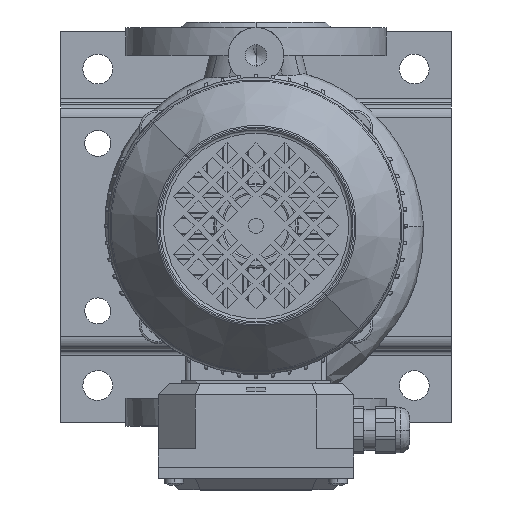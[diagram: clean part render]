
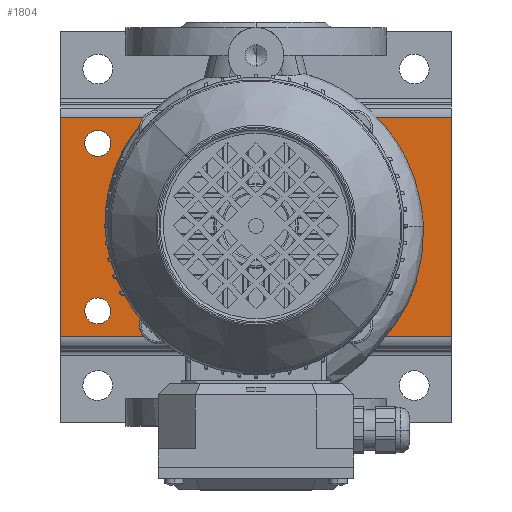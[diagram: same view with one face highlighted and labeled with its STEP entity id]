
A CAD part, top view. The second image highlights one B-rep face of the part: STEP entity #1804.
In plain terms, the highlighted planar face has unit normal (0, 0, 1) as drawn and (0, 1, 0) by its records, which use the part's own axes.
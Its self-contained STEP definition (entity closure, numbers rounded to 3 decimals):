
#1804=ADVANCED_FACE('',(#3386,#3387,#3388,#3389,#3390),#3391,.T.);
#1856=EDGE_CURVE('',#3479,#3480,#3481,.T.);
#1864=EDGE_CURVE('',#3495,#3496,#3497,.T.);
#1872=EDGE_CURVE('',#3511,#3512,#3513,.T.);
#1880=EDGE_CURVE('',#3527,#3528,#3529,.T.);
#1924=EDGE_CURVE('',#3600,#3603,#3604,.T.);
#1948=EDGE_CURVE('',#3635,#3638,#3639,.T.);
#1968=EDGE_CURVE('',#3638,#3600,#3663,.T.);
#1970=EDGE_CURVE('',#3635,#3603,#3665,.T.);
#1972=EDGE_CURVE('',#3528,#3527,#3667,.T.);
#1974=EDGE_CURVE('',#3512,#3511,#3669,.T.);
#1976=EDGE_CURVE('',#3496,#3495,#3671,.T.);
#1978=EDGE_CURVE('',#3480,#3479,#3673,.T.);
#3386=FACE_OUTER_BOUND('',#11024,.T.);
#3387=FACE_BOUND('',#11025,.T.);
#3388=FACE_BOUND('',#11026,.T.);
#3389=FACE_BOUND('',#11027,.T.);
#3390=FACE_BOUND('',#11028,.T.);
#3391=PLANE('',#11029);
#3479=VERTEX_POINT('',#11119);
#3480=VERTEX_POINT('',#11120);
#3481=CIRCLE('',#11121,5.5);
#3495=VERTEX_POINT('',#11139);
#3496=VERTEX_POINT('',#11140);
#3497=CIRCLE('',#11141,7.);
#3511=VERTEX_POINT('',#11159);
#3512=VERTEX_POINT('',#11160);
#3513=CIRCLE('',#11161,7.0);
#3527=VERTEX_POINT('',#11179);
#3528=VERTEX_POINT('',#11180);
#3529=CIRCLE('',#11181,7.0);
#3600=VERTEX_POINT('',#11279);
#3603=VERTEX_POINT('',#11283);
#3604=LINE('',#11284,#11285);
#3635=VERTEX_POINT('',#11330);
#3638=VERTEX_POINT('',#11334);
#3639=LINE('',#11335,#11336);
#3663=LINE('',#11374,#11375);
#3665=LINE('',#11378,#11379);
#3667=CIRCLE('',#11382,7.0);
#3669=CIRCLE('',#11385,7.0);
#3671=CIRCLE('',#11388,7.);
#3673=CIRCLE('',#11391,5.5);
#11024=EDGE_LOOP('',(#19453,#19454,#19455,#19456));
#11025=EDGE_LOOP('',(#19457,#19458));
#11026=EDGE_LOOP('',(#19459,#19460));
#11027=EDGE_LOOP('',(#19461,#19462));
#11028=EDGE_LOOP('',(#19463,#19464));
#11029=AXIS2_PLACEMENT_3D('',#19465,#19466,#19467);
#11119=CARTESIAN_POINT('',(-3.111,43.0,100.464));
#11120=CARTESIAN_POINT('',(3.111,43.0,109.536));
#11121=AXIS2_PLACEMENT_3D('',#19731,#19732,#19733);
#11139=CARTESIAN_POINT('',(-38.825,43.0,23.297));
#11140=CARTESIAN_POINT('',(-51.175,43.0,16.703));
#11141=AXIS2_PLACEMENT_3D('',#19743,#19744,#19745);
#11159=CARTESIAN_POINT('',(0.0,43.0,148.0));
#11160=CARTESIAN_POINT('',(0.,43.0,162.0));
#11161=AXIS2_PLACEMENT_3D('',#19755,#19756,#19757);
#11179=CARTESIAN_POINT('',(45.0,43.0,27.0));
#11180=CARTESIAN_POINT('',(45.0,43.0,13.0));
#11181=AXIS2_PLACEMENT_3D('',#19767,#19768,#19769);
#11279=CARTESIAN_POINT('',(59.0,43.0,0.0));
#11283=CARTESIAN_POINT('',(59.0,43.0,210.0));
#11284=CARTESIAN_POINT('',(59.0,43.0,0.0));
#11285=VECTOR('',#19821,1.0);
#11330=CARTESIAN_POINT('',(-59.0,43.0,210.0));
#11334=CARTESIAN_POINT('',(-59.0,43.0,0.0));
#11335=CARTESIAN_POINT('',(-59.0,43.0,210.0));
#11336=VECTOR('',#19849,1.0);
#11374=CARTESIAN_POINT('',(-59.0,43.0,0.0));
#11375=VECTOR('',#19869,1.0);
#11378=CARTESIAN_POINT('',(-59.0,43.0,210.0));
#11379=VECTOR('',#19870,1.0);
#11382=AXIS2_PLACEMENT_3D('',#19871,#19872,#19873);
#11385=AXIS2_PLACEMENT_3D('',#19874,#19875,#19876);
#11388=AXIS2_PLACEMENT_3D('',#19877,#19878,#19879);
#11391=AXIS2_PLACEMENT_3D('',#19880,#19881,#19882);
#19453=ORIENTED_EDGE('',*,*,#1924,.F.);
#19454=ORIENTED_EDGE('',*,*,#1968,.F.);
#19455=ORIENTED_EDGE('',*,*,#1948,.F.);
#19456=ORIENTED_EDGE('',*,*,#1970,.T.);
#19457=ORIENTED_EDGE('',*,*,#1880,.T.);
#19458=ORIENTED_EDGE('',*,*,#1972,.T.);
#19459=ORIENTED_EDGE('',*,*,#1872,.T.);
#19460=ORIENTED_EDGE('',*,*,#1974,.T.);
#19461=ORIENTED_EDGE('',*,*,#1864,.T.);
#19462=ORIENTED_EDGE('',*,*,#1976,.T.);
#19463=ORIENTED_EDGE('',*,*,#1856,.T.);
#19464=ORIENTED_EDGE('',*,*,#1978,.T.);
#19465=CARTESIAN_POINT('',(-66.0,43.0,0.0));
#19466=DIRECTION('',(0.0,1.0,0.0));
#19467=DIRECTION('',(0.0,0.0,1.0));
#19731=CARTESIAN_POINT('',(0.0,43.0,105.0));
#19732=DIRECTION('',(0.0,-1.0,-0.0));
#19733=DIRECTION('',(-0.566,0.0,-0.825));
#19743=CARTESIAN_POINT('',(-45.0,43.0,20.0));
#19744=DIRECTION('',(0.0,-1.0,0.0));
#19745=DIRECTION('',(0.882,0.0,0.471));
#19755=CARTESIAN_POINT('',(0.0,43.0,155.0));
#19756=DIRECTION('',(0.0,-1.0,0.0));
#19757=DIRECTION('',(0.0,0.0,-1.0));
#19767=CARTESIAN_POINT('',(45.0,43.0,20.0));
#19768=DIRECTION('',(0.0,-1.0,0.0));
#19769=DIRECTION('',(0.0,0.0,1.0));
#19821=DIRECTION('',(0.0,0.0,1.0));
#19849=DIRECTION('',(0.0,0.0,-1.0));
#19869=DIRECTION('',(1.0,0.0,0.0));
#19870=DIRECTION('',(1.0,0.0,0.0));
#19871=CARTESIAN_POINT('',(45.0,43.0,20.0));
#19872=DIRECTION('',(0.0,-1.0,0.0));
#19873=DIRECTION('',(0.0,0.0,1.0));
#19874=CARTESIAN_POINT('',(0.0,43.0,155.0));
#19875=DIRECTION('',(0.0,-1.0,0.0));
#19876=DIRECTION('',(0.0,0.0,-1.0));
#19877=CARTESIAN_POINT('',(-45.0,43.0,20.0));
#19878=DIRECTION('',(0.0,-1.0,0.0));
#19879=DIRECTION('',(0.882,0.0,0.471));
#19880=CARTESIAN_POINT('',(0.0,43.0,105.0));
#19881=DIRECTION('',(0.0,-1.0,-0.0));
#19882=DIRECTION('',(-0.566,0.0,-0.825));
